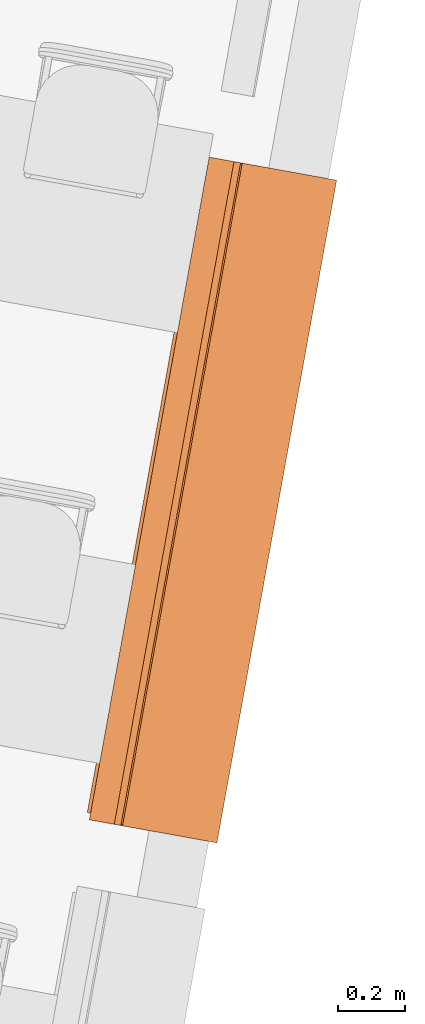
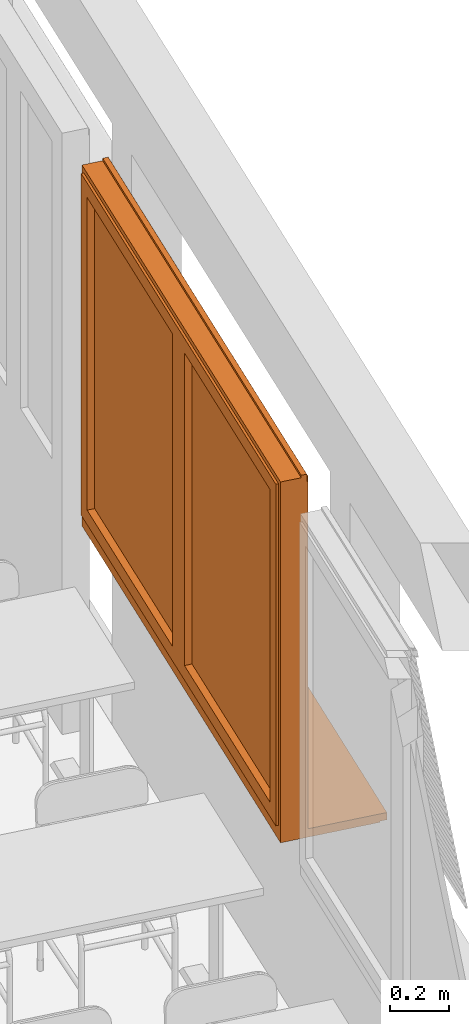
# One storey, part 57 of 79: 1 proxy.
"""IFC2X3 building model written with IfcOpenShell, lengths in metres."""

from ifc_helpers import new_model, entity, si_unit, converted_unit, derived_unit, money_unit, direction, frame, origin_with_axes, place, context, subcontext, project, spatial, open_shell, faceted_brep, surface_model, material, type_object, element, save


model = new_model("IFC2X3")

# Units and contexts
model_context = context("Model", 3, precision=1e-05, world=origin_with_axes(), true_north=direction((0.0, 1.0)))
body_context = subcontext(model_context, "Body", "Model", "MODEL_VIEW")
ifc_project = project(units=[si_unit("LENGTHUNIT", "METRE"), si_unit("AREAUNIT", "SQUARE_METRE"), si_unit("VOLUMEUNIT", "CUBIC_METRE"), converted_unit("PLANEANGLEUNIT", "DEGREE", entity("IfcPlaneAngleMeasure", 0.0174532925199), si_unit("PLANEANGLEUNIT", "RADIAN"), dimensions=[0, 0, 0, 0, 0, 0, 0]), money_unit("CHF"), converted_unit("TIMEUNIT", "Year", entity("IfcTimeMeasure", 31556926.0), si_unit("TIMEUNIT", "SECOND"), dimensions=[0, 0, 1, 0, 0, 0, 0]), si_unit("MASSUNIT", "GRAM", prefix="KILO"), si_unit("THERMODYNAMICTEMPERATUREUNIT", "DEGREE_CELSIUS"), si_unit("LUMINOUSINTENSITYUNIT", "LUMEN"), si_unit("ENERGYUNIT", "JOULE", prefix="MEGA"), derived_unit("THERMALCONDUCTANCEUNIT", [(si_unit("POWERUNIT", "WATT"), 1), (si_unit("LENGTHUNIT", "METRE"), -1), (si_unit("THERMODYNAMICTEMPERATUREUNIT", "KELVIN"), -1)]), derived_unit("SPECIFICHEATCAPACITYUNIT", [(si_unit("ENERGYUNIT", "JOULE"), 1), (si_unit("MASSUNIT", "GRAM", prefix="KILO"), -1), (si_unit("THERMODYNAMICTEMPERATUREUNIT", "KELVIN"), -1)]), derived_unit("MASSDENSITYUNIT", [(si_unit("MASSUNIT", "GRAM", prefix="KILO"), 1), (si_unit("VOLUMEUNIT", "CUBIC_METRE"), -1)])], contexts=[model_context])

# Site, building, storey
site_placement = place(None, frame((0.0, 0.0, 0.0), z_axis=(0.0, 0.0, 1.0), x_axis=(-0.177771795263, -0.984071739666, 0.0)))
site = spatial("IfcSite", under=ifc_project, at=site_placement, Name="Site", CompositionType="ELEMENT")
building_placement = place(site_placement, origin_with_axes())
building = spatial("IfcBuilding", under=site, at=building_placement, Name="Bâtiment", CompositionType="ELEMENT")
storey_placement = place(building_placement, origin_with_axes())
storey = spatial("IfcBuildingStorey", under=building, at=storey_placement, Name="RDC", CompositionType="ELEMENT", Elevation=0.0)

# Proxy
ifc_material = material(Name="Matériau de construction IFC")
building_element_proxy_type = type_object("IfcBuildingElementProxyType", Name="Fenêtre double 21", PredefinedType="NOTDEFINED")
proxy_placement = place(storey_placement, frame((150.919841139, -148.117150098, 1.0), z_axis=(0.0, 0.0, 1.0), x_axis=(-1.0, 0.0, 0.0)))
element("IfcBuildingElementProxy", 1, at=proxy_placement, inside=storey, type_object=building_element_proxy_type, material=ifc_material, Name="Fen classe-200", context=body_context, shape_type="SurfaceModel", body=[
    faceted_brep([(0.0, 0.285, 0.005), (0.0, 0.0, 0.005), (0.0, 0.0, 0.035), (0.0, 0.285, 0.035), (2.0, 0.285, 0.005), (2.0, 0.0, 0.005), (2.0, -0.0249999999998, 0.005), (0.0, -0.0249999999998, 0.005), (0.0, -0.0249999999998, 0.035), (2.0, -0.0249999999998, 0.035), (2.0, 0.0, 0.035), (2.0, 0.285, 0.035)], [[[0, 1, 2, 3]], [[0, 4, 5, 6, 7, 1]], [[1, 7, 8, 2]], [[3, 2, 8, 9, 10, 11]], [[4, 0, 3, 11]], [[5, 4, 11, 10]], [[6, 5, 10, 9]], [[7, 6, 9, 8]]]),
    faceted_brep([(0.0, 0.285, 0.0), (0.0, 0.0, 0.0), (0.0, 0.0, 0.005), (0.0, 0.285, 0.005), (2.0, 0.285, 0.0), (2.0, 0.0, 0.0), (2.0, 0.0, 0.005), (2.0, 0.285, 0.005)], [[[0, 1, 2, 3]], [[0, 4, 5, 1]], [[1, 5, 6, 2]], [[3, 2, 6, 7]], [[4, 0, 3, 7]], [[5, 4, 7, 6]]]),
    faceted_brep([(0.0, 0.285, 1.48), (0.00299999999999, 0.285, 1.48), (0.00299999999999, 0.265, 1.48), (0.0, 0.265, 1.48), (0.0, 0.285, 1.51), (0.00299999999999, 0.285, 1.51), (0.00299999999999, 0.265, 1.51), (0.0, 0.265, 1.51)], [[[0, 1, 2, 3]], [[4, 5, 1, 0]], [[1, 5, 6, 2]], [[3, 2, 6, 7]], [[0, 3, 7, 4]], [[7, 6, 5, 4]]]),
    faceted_brep([(1.997, 0.285, 1.48), (2.0, 0.285, 1.48), (2.0, 0.265, 1.48), (1.997, 0.265, 1.48), (1.997, 0.285, 1.51), (2.0, 0.285, 1.51), (2.0, 0.265, 1.51), (1.997, 0.265, 1.51)], [[[0, 1, 2, 3]], [[4, 5, 1, 0]], [[1, 5, 6, 2]], [[3, 2, 6, 7]], [[0, 3, 7, 4]], [[7, 6, 5, 4]]]),
    faceted_brep([(0.00299999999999, 0.285, 1.48), (1.997, 0.285, 1.48), (1.997, 0.282, 1.48), (0.00299999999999, 0.282, 1.48), (0.00299999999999, 0.285, 1.51), (1.997, 0.285, 1.51), (1.997, 0.265, 1.51), (1.997, 0.265, 1.48), (1.997, 0.268, 1.48), (1.997, 0.268, 1.5), (1.997, 0.26, 1.5), (1.997, 0.26, 1.48), (1.997, 0.263, 1.48), (1.997, 0.263, 1.503), (1.997, 0.268, 1.503), (1.997, 0.268, 1.507), (1.997, 0.282, 1.507), (1.997, 0.282, 1.5), (0.00299999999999, 0.282, 1.5), (0.00299999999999, 0.282, 1.507), (0.00299999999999, 0.268, 1.507), (0.00299999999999, 0.268, 1.503), (0.00299999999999, 0.263, 1.503), (0.00299999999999, 0.263, 1.48), (0.00299999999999, 0.26, 1.48), (0.00299999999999, 0.26, 1.5), (0.00299999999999, 0.268, 1.5), (0.00299999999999, 0.268, 1.48), (0.00299999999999, 0.265, 1.48), (0.00299999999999, 0.265, 1.51)], [[[0, 1, 2, 3]], [[4, 5, 1, 0]], [[1, 5, 6, 7, 8, 9, 10, 11, 12, 13, 14, 15, 16, 17, 2]], [[3, 2, 17, 18]], [[0, 3, 18, 19, 20, 21, 22, 23, 24, 25, 26, 27, 28, 29, 4]], [[29, 6, 5, 4]], [[28, 7, 6, 29]], [[27, 8, 7, 28]], [[26, 9, 8, 27]], [[25, 10, 9, 26]], [[24, 11, 10, 25]], [[23, 12, 11, 24]], [[22, 13, 12, 23]], [[21, 14, 13, 22]], [[20, 15, 14, 21]], [[19, 16, 15, 20]], [[18, 17, 16, 19]]]),
    faceted_brep([(2.0, 0.285, 0.03), (2.0, 0.285, 1.48), (2.0, 0.26, 1.48), (2.0, 0.26, 0.03), (1.975, 0.285, 0.03), (1.975, 0.285, 1.48), (1.975, 0.282, 1.48), (1.997, 0.282, 1.48), (1.997, 0.263, 1.48), (1.975, 0.263, 1.48), (1.975, 0.26, 1.48), (1.975, 0.26, 0.03), (1.975, 0.263, 0.03), (1.997, 0.263, 0.03), (1.997, 0.282, 0.03), (1.975, 0.282, 0.03)], [[[0, 1, 2, 3]], [[4, 5, 1, 0]], [[1, 5, 6, 7, 8, 9, 10, 2]], [[3, 2, 10, 11]], [[0, 3, 11, 12, 13, 14, 15, 4]], [[15, 6, 5, 4]], [[14, 7, 6, 15]], [[13, 8, 7, 14]], [[12, 9, 8, 13]], [[11, 10, 9, 12]]]),
    faceted_brep([(0.0, 0.285, 0.03), (0.0, 0.26, 0.03), (0.0, 0.26, 1.48), (0.0, 0.285, 1.48), (0.025, 0.285, 0.03), (0.025, 0.282, 0.03), (0.00299999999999, 0.282, 0.03), (0.00299999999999, 0.263, 0.03), (0.025, 0.263, 0.03), (0.025, 0.26, 0.03), (0.025, 0.26, 1.48), (0.025, 0.263, 1.48), (0.00299999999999, 0.263, 1.48), (0.00299999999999, 0.282, 1.48), (0.025, 0.282, 1.48), (0.025, 0.285, 1.48)], [[[0, 1, 2, 3]], [[0, 4, 5, 6, 7, 8, 9, 1]], [[1, 9, 10, 2]], [[3, 2, 10, 11, 12, 13, 14, 15]], [[4, 0, 3, 15]], [[5, 4, 15, 14]], [[6, 5, 14, 13]], [[7, 6, 13, 12]], [[8, 7, 12, 11]], [[9, 8, 11, 10]]]),
    faceted_brep([(1.997, 0.27375, 1.505), (1.997, 0.273333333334, 1.50333333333), (0.00299999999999, 0.273333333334, 1.50333333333), (0.00299999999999, 0.27375, 1.505), (1.997, 0.26875, 1.505), (1.997, 0.268333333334, 1.50333333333), (1.997, 0.268333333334, 1.49666666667), (1.997, 0.27, 1.49), (1.997, 0.275, 1.49), (1.997, 0.273333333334, 1.49666666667), (0.00299999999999, 0.273333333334, 1.49666666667), (0.00299999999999, 0.275, 1.49), (0.00299999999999, 0.27, 1.49), (0.00299999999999, 0.268333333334, 1.49666666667), (0.00299999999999, 0.268333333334, 1.50333333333), (0.00299999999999, 0.26875, 1.505)], [[[0, 1, 2, 3]], [[4, 5, 6, 7, 8, 9, 1, 0]], [[2, 1, 9, 10]], [[3, 2, 10, 11, 12, 13, 14, 15]], [[3, 15, 4, 0]], [[14, 5, 4, 15]], [[13, 6, 5, 14]], [[12, 7, 6, 13]], [[11, 8, 7, 12]], [[10, 9, 8, 11]]]),
    faceted_brep([(0.00299999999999, 0.275, 1.49), (1.997, 0.275, 1.49), (1.997, 0.273333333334, 1.48333333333), (0.00299999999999, 0.273333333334, 1.48333333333), (0.00299999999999, 0.27, 1.49), (1.997, 0.27, 1.49), (1.997, 0.268333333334, 1.48333333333), (1.997, 0.268333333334, 1.47666666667), (1.997, 0.27, 1.47), (1.997, 0.275, 1.47), (1.997, 0.273333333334, 1.47666666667), (0.00299999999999, 0.273333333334, 1.47666666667), (0.00299999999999, 0.275, 1.47), (0.00299999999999, 0.27, 1.47), (0.00299999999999, 0.268333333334, 1.47666666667), (0.00299999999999, 0.268333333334, 1.48333333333)], [[[0, 1, 2, 3]], [[4, 5, 1, 0]], [[1, 5, 6, 7, 8, 9, 10, 2]], [[3, 2, 10, 11]], [[0, 3, 11, 12, 13, 14, 15, 4]], [[15, 6, 5, 4]], [[14, 7, 6, 15]], [[13, 8, 7, 14]], [[12, 9, 8, 13]], [[11, 10, 9, 12]]]),
    faceted_brep([(0.00299999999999, 0.275, 1.47), (1.997, 0.275, 1.47), (1.997, 0.273333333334, 1.46333333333), (0.00299999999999, 0.273333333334, 1.46333333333), (0.00299999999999, 0.27, 1.47), (1.997, 0.27, 1.47), (1.997, 0.268333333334, 1.46333333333), (1.997, 0.268333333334, 1.45666666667), (1.997, 0.27, 1.45), (1.997, 0.275, 1.45), (1.997, 0.273333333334, 1.45666666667), (0.00299999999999, 0.273333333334, 1.45666666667), (0.00299999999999, 0.275, 1.45), (0.00299999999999, 0.27, 1.45), (0.00299999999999, 0.268333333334, 1.45666666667), (0.00299999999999, 0.268333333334, 1.46333333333)], [[[0, 1, 2, 3]], [[4, 5, 1, 0]], [[1, 5, 6, 7, 8, 9, 10, 2]], [[3, 2, 10, 11]], [[0, 3, 11, 12, 13, 14, 15, 4]], [[15, 6, 5, 4]], [[14, 7, 6, 15]], [[13, 8, 7, 14]], [[12, 9, 8, 13]], [[11, 10, 9, 12]]]),
    faceted_brep([(0.00299999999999, 0.275, 1.45), (1.997, 0.275, 1.45), (1.997, 0.273333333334, 1.44333333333), (0.00299999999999, 0.273333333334, 1.44333333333), (0.00299999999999, 0.27, 1.45), (1.997, 0.27, 1.45), (1.997, 0.268333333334, 1.44333333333), (1.997, 0.268333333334, 1.43666666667), (1.997, 0.27, 1.43), (1.997, 0.275, 1.43), (1.997, 0.273333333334, 1.43666666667), (0.00299999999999, 0.273333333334, 1.43666666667), (0.00299999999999, 0.275, 1.43), (0.00299999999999, 0.27, 1.43), (0.00299999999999, 0.268333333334, 1.43666666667), (0.00299999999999, 0.268333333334, 1.44333333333)], [[[0, 1, 2, 3]], [[4, 5, 1, 0]], [[1, 5, 6, 7, 8, 9, 10, 2]], [[3, 2, 10, 11]], [[0, 3, 11, 12, 13, 14, 15, 4]], [[15, 6, 5, 4]], [[14, 7, 6, 15]], [[13, 8, 7, 14]], [[12, 9, 8, 13]], [[11, 10, 9, 12]]]),
    faceted_brep([(0.00299999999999, 0.275, 1.43), (1.997, 0.275, 1.43), (1.997, 0.273333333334, 1.42333333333), (0.00299999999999, 0.273333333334, 1.42333333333), (0.00299999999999, 0.27, 1.43), (1.997, 0.27, 1.43), (1.997, 0.268333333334, 1.42333333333), (1.997, 0.268333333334, 1.41666666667), (1.997, 0.27, 1.41), (1.997, 0.275, 1.41), (1.997, 0.273333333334, 1.41666666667), (0.00299999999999, 0.273333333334, 1.41666666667), (0.00299999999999, 0.275, 1.41), (0.00299999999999, 0.27, 1.41), (0.00299999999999, 0.268333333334, 1.41666666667), (0.00299999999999, 0.268333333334, 1.42333333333)], [[[0, 1, 2, 3]], [[4, 5, 1, 0]], [[1, 5, 6, 7, 8, 9, 10, 2]], [[3, 2, 10, 11]], [[0, 3, 11, 12, 13, 14, 15, 4]], [[15, 6, 5, 4]], [[14, 7, 6, 15]], [[13, 8, 7, 14]], [[12, 9, 8, 13]], [[11, 10, 9, 12]]]),
    faceted_brep([(0.00299999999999, 0.275, 1.41), (1.997, 0.275, 1.41), (1.997, 0.273333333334, 1.40333333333), (0.00299999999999, 0.273333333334, 1.40333333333), (0.00299999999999, 0.27, 1.41), (1.997, 0.27, 1.41), (1.997, 0.268333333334, 1.40333333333), (1.997, 0.268333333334, 1.39666666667), (1.997, 0.27, 1.39), (1.997, 0.275, 1.39), (1.997, 0.273333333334, 1.39666666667), (0.00299999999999, 0.273333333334, 1.39666666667), (0.00299999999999, 0.275, 1.39), (0.00299999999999, 0.27, 1.39), (0.00299999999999, 0.268333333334, 1.39666666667), (0.00299999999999, 0.268333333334, 1.40333333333)], [[[0, 1, 2, 3]], [[4, 5, 1, 0]], [[1, 5, 6, 7, 8, 9, 10, 2]], [[3, 2, 10, 11]], [[0, 3, 11, 12, 13, 14, 15, 4]], [[15, 6, 5, 4]], [[14, 7, 6, 15]], [[13, 8, 7, 14]], [[12, 9, 8, 13]], [[11, 10, 9, 12]]]),
    faceted_brep([(0.00299999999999, 0.275, 1.39), (1.997, 0.275, 1.39), (1.997, 0.273333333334, 1.38333333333), (0.00299999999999, 0.273333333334, 1.38333333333), (0.00299999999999, 0.27, 1.39), (1.997, 0.27, 1.39), (1.997, 0.268333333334, 1.38333333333), (1.997, 0.268333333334, 1.37666666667), (1.997, 0.27, 1.37), (1.997, 0.275, 1.37), (1.997, 0.273333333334, 1.37666666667), (0.00299999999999, 0.273333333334, 1.37666666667), (0.00299999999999, 0.275, 1.37), (0.00299999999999, 0.27, 1.37), (0.00299999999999, 0.268333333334, 1.37666666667), (0.00299999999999, 0.268333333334, 1.38333333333)], [[[0, 1, 2, 3]], [[4, 5, 1, 0]], [[1, 5, 6, 7, 8, 9, 10, 2]], [[3, 2, 10, 11]], [[0, 3, 11, 12, 13, 14, 15, 4]], [[15, 6, 5, 4]], [[14, 7, 6, 15]], [[13, 8, 7, 14]], [[12, 9, 8, 13]], [[11, 10, 9, 12]]]),
    faceted_brep([(0.00299999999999, 0.275, 1.37), (1.997, 0.275, 1.37), (1.997, 0.273333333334, 1.36333333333), (0.00299999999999, 0.273333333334, 1.36333333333), (0.00299999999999, 0.27, 1.37), (1.997, 0.27, 1.37), (1.997, 0.268333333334, 1.36333333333), (1.997, 0.268333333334, 1.35666666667), (1.997, 0.27, 1.35), (1.997, 0.275, 1.35), (1.997, 0.273333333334, 1.35666666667), (0.00299999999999, 0.273333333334, 1.35666666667), (0.00299999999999, 0.275, 1.35), (0.00299999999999, 0.27, 1.35), (0.00299999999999, 0.268333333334, 1.35666666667), (0.00299999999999, 0.268333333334, 1.36333333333)], [[[0, 1, 2, 3]], [[4, 5, 1, 0]], [[1, 5, 6, 7, 8, 9, 10, 2]], [[3, 2, 10, 11]], [[0, 3, 11, 12, 13, 14, 15, 4]], [[15, 6, 5, 4]], [[14, 7, 6, 15]], [[13, 8, 7, 14]], [[12, 9, 8, 13]], [[11, 10, 9, 12]]]),
    faceted_brep([(0.00299999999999, 0.275, 1.35), (1.997, 0.275, 1.35), (1.997, 0.273333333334, 1.34333333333), (0.00299999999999, 0.273333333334, 1.34333333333), (0.00299999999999, 0.27, 1.35), (1.997, 0.27, 1.35), (1.997, 0.268333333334, 1.34333333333), (1.997, 0.268333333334, 1.33666666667), (1.997, 0.27, 1.33), (1.997, 0.275, 1.33), (1.997, 0.273333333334, 1.33666666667), (0.00299999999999, 0.273333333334, 1.33666666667), (0.00299999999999, 0.275, 1.33), (0.00299999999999, 0.27, 1.33), (0.00299999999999, 0.268333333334, 1.33666666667), (0.00299999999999, 0.268333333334, 1.34333333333)], [[[0, 1, 2, 3]], [[4, 5, 1, 0]], [[1, 5, 6, 7, 8, 9, 10, 2]], [[3, 2, 10, 11]], [[0, 3, 11, 12, 13, 14, 15, 4]], [[15, 6, 5, 4]], [[14, 7, 6, 15]], [[13, 8, 7, 14]], [[12, 9, 8, 13]], [[11, 10, 9, 12]]]),
    faceted_brep([(0.00299999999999, 0.275, 1.33), (1.997, 0.275, 1.33), (1.997, 0.273333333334, 1.32333333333), (0.00299999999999, 0.273333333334, 1.32333333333), (0.00299999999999, 0.27, 1.33), (1.997, 0.27, 1.33), (1.997, 0.268333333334, 1.32333333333), (1.997, 0.268333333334, 1.31666666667), (1.997, 0.27, 1.31), (1.997, 0.275, 1.31), (1.997, 0.273333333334, 1.31666666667), (0.00299999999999, 0.273333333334, 1.31666666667), (0.00299999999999, 0.275, 1.31), (0.00299999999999, 0.27, 1.31), (0.00299999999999, 0.268333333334, 1.31666666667), (0.00299999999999, 0.268333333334, 1.32333333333)], [[[0, 1, 2, 3]], [[4, 5, 1, 0]], [[1, 5, 6, 7, 8, 9, 10, 2]], [[3, 2, 10, 11]], [[0, 3, 11, 12, 13, 14, 15, 4]], [[15, 6, 5, 4]], [[14, 7, 6, 15]], [[13, 8, 7, 14]], [[12, 9, 8, 13]], [[11, 10, 9, 12]]]),
    faceted_brep([(0.00299999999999, 0.275, 1.31), (1.997, 0.275, 1.31), (1.997, 0.273333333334, 1.30333333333), (0.00299999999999, 0.273333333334, 1.30333333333), (0.00299999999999, 0.27, 1.31), (1.997, 0.27, 1.31), (1.997, 0.268333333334, 1.30333333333), (1.997, 0.268333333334, 1.29666666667), (1.997, 0.27, 1.29), (1.997, 0.275, 1.29), (1.997, 0.273333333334, 1.29666666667), (0.00299999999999, 0.273333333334, 1.29666666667), (0.00299999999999, 0.275, 1.29), (0.00299999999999, 0.27, 1.29), (0.00299999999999, 0.268333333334, 1.29666666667), (0.00299999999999, 0.268333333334, 1.30333333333)], [[[0, 1, 2, 3]], [[4, 5, 1, 0]], [[1, 5, 6, 7, 8, 9, 10, 2]], [[3, 2, 10, 11]], [[0, 3, 11, 12, 13, 14, 15, 4]], [[15, 6, 5, 4]], [[14, 7, 6, 15]], [[13, 8, 7, 14]], [[12, 9, 8, 13]], [[11, 10, 9, 12]]]),
    faceted_brep([(0.00299999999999, 0.275, 1.29), (1.997, 0.275, 1.29), (1.997, 0.273333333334, 1.28333333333), (0.00299999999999, 0.273333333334, 1.28333333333), (0.00299999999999, 0.27, 1.29), (1.997, 0.27, 1.29), (1.997, 0.268333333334, 1.28333333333), (1.997, 0.268333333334, 1.27666666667), (1.997, 0.27, 1.27), (1.997, 0.275, 1.27), (1.997, 0.273333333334, 1.27666666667), (0.00299999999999, 0.273333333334, 1.27666666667), (0.00299999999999, 0.275, 1.27), (0.00299999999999, 0.27, 1.27), (0.00299999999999, 0.268333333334, 1.27666666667), (0.00299999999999, 0.268333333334, 1.28333333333)], [[[0, 1, 2, 3]], [[4, 5, 1, 0]], [[1, 5, 6, 7, 8, 9, 10, 2]], [[3, 2, 10, 11]], [[0, 3, 11, 12, 13, 14, 15, 4]], [[15, 6, 5, 4]], [[14, 7, 6, 15]], [[13, 8, 7, 14]], [[12, 9, 8, 13]], [[11, 10, 9, 12]]]),
    faceted_brep([(0.00299999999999, 0.275, 1.27), (1.997, 0.275, 1.27), (1.997, 0.273333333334, 1.26333333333), (0.00299999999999, 0.273333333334, 1.26333333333), (0.00299999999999, 0.27, 1.27), (1.997, 0.27, 1.27), (1.997, 0.268333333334, 1.26333333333), (1.997, 0.268333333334, 1.25666666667), (1.997, 0.27, 1.25), (1.997, 0.275, 1.25), (1.997, 0.273333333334, 1.25666666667), (0.00299999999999, 0.273333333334, 1.25666666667), (0.00299999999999, 0.275, 1.25), (0.00299999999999, 0.27, 1.25), (0.00299999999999, 0.268333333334, 1.25666666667), (0.00299999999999, 0.268333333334, 1.26333333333)], [[[0, 1, 2, 3]], [[4, 5, 1, 0]], [[1, 5, 6, 7, 8, 9, 10, 2]], [[3, 2, 10, 11]], [[0, 3, 11, 12, 13, 14, 15, 4]], [[15, 6, 5, 4]], [[14, 7, 6, 15]], [[13, 8, 7, 14]], [[12, 9, 8, 13]], [[11, 10, 9, 12]]]),
    faceted_brep([(0.00299999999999, 0.275, 1.25), (1.997, 0.275, 1.25), (1.997, 0.273333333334, 1.24333333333), (0.00299999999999, 0.273333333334, 1.24333333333), (0.00299999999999, 0.27, 1.25), (1.997, 0.27, 1.25), (1.997, 0.268333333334, 1.24333333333), (1.997, 0.268333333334, 1.23666666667), (1.997, 0.27, 1.23), (1.997, 0.275, 1.23), (1.997, 0.273333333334, 1.23666666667), (0.00299999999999, 0.273333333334, 1.23666666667), (0.00299999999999, 0.275, 1.23), (0.00299999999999, 0.27, 1.23), (0.00299999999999, 0.268333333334, 1.23666666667), (0.00299999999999, 0.268333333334, 1.24333333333)], [[[0, 1, 2, 3]], [[4, 5, 1, 0]], [[1, 5, 6, 7, 8, 9, 10, 2]], [[3, 2, 10, 11]], [[0, 3, 11, 12, 13, 14, 15, 4]], [[15, 6, 5, 4]], [[14, 7, 6, 15]], [[13, 8, 7, 14]], [[12, 9, 8, 13]], [[11, 10, 9, 12]]]),
    faceted_brep([(0.00299999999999, 0.275, 1.23), (1.997, 0.275, 1.23), (1.997, 0.273333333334, 1.22333333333), (0.00299999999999, 0.273333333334, 1.22333333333), (0.00299999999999, 0.27, 1.23), (1.997, 0.27, 1.23), (1.997, 0.268333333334, 1.22333333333), (1.997, 0.268333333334, 1.21666666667), (1.997, 0.27, 1.21), (1.997, 0.275, 1.21), (1.997, 0.273333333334, 1.21666666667), (0.00299999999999, 0.273333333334, 1.21666666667), (0.00299999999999, 0.275, 1.21), (0.00299999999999, 0.27, 1.21), (0.00299999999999, 0.268333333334, 1.21666666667), (0.00299999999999, 0.268333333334, 1.22333333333)], [[[0, 1, 2, 3]], [[4, 5, 1, 0]], [[1, 5, 6, 7, 8, 9, 10, 2]], [[3, 2, 10, 11]], [[0, 3, 11, 12, 13, 14, 15, 4]], [[15, 6, 5, 4]], [[14, 7, 6, 15]], [[13, 8, 7, 14]], [[12, 9, 8, 13]], [[11, 10, 9, 12]]]),
    faceted_brep([(0.00299999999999, 0.275, 1.21), (1.997, 0.275, 1.21), (1.997, 0.273333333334, 1.20333333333), (0.00299999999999, 0.273333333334, 1.20333333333), (0.00299999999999, 0.27, 1.21), (1.997, 0.27, 1.21), (1.997, 0.268333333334, 1.20333333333), (1.997, 0.268333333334, 1.19666666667), (1.997, 0.27, 1.19), (1.997, 0.275, 1.19), (1.997, 0.273333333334, 1.19666666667), (0.00299999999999, 0.273333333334, 1.19666666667), (0.00299999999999, 0.275, 1.19), (0.00299999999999, 0.27, 1.19), (0.00299999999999, 0.268333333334, 1.19666666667), (0.00299999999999, 0.268333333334, 1.20333333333)], [[[0, 1, 2, 3]], [[4, 5, 1, 0]], [[1, 5, 6, 7, 8, 9, 10, 2]], [[3, 2, 10, 11]], [[0, 3, 11, 12, 13, 14, 15, 4]], [[15, 6, 5, 4]], [[14, 7, 6, 15]], [[13, 8, 7, 14]], [[12, 9, 8, 13]], [[11, 10, 9, 12]]]),
    faceted_brep([(0.00299999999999, 0.275, 1.19), (1.997, 0.275, 1.19), (1.997, 0.273333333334, 1.18333333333), (0.00299999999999, 0.273333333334, 1.18333333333), (0.00299999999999, 0.27, 1.19), (1.997, 0.27, 1.19), (1.997, 0.268333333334, 1.18333333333), (1.997, 0.268333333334, 1.17666666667), (1.997, 0.27, 1.17), (1.997, 0.275, 1.17), (1.997, 0.273333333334, 1.17666666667), (0.00299999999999, 0.273333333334, 1.17666666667), (0.00299999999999, 0.275, 1.17), (0.00299999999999, 0.27, 1.17), (0.00299999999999, 0.268333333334, 1.17666666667), (0.00299999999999, 0.268333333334, 1.18333333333)], [[[0, 1, 2, 3]], [[4, 5, 1, 0]], [[1, 5, 6, 7, 8, 9, 10, 2]], [[3, 2, 10, 11]], [[0, 3, 11, 12, 13, 14, 15, 4]], [[15, 6, 5, 4]], [[14, 7, 6, 15]], [[13, 8, 7, 14]], [[12, 9, 8, 13]], [[11, 10, 9, 12]]]),
    faceted_brep([(0.00299999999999, 0.275, 1.17), (1.997, 0.275, 1.17), (1.997, 0.273333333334, 1.16333333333), (0.00299999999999, 0.273333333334, 1.16333333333), (0.00299999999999, 0.27, 1.17), (1.997, 0.27, 1.17), (1.997, 0.268333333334, 1.16333333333), (1.997, 0.268333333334, 1.15666666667), (1.997, 0.27, 1.15), (1.997, 0.275, 1.15), (1.997, 0.273333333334, 1.15666666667), (0.00299999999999, 0.273333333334, 1.15666666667), (0.00299999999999, 0.275, 1.15), (0.00299999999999, 0.27, 1.15), (0.00299999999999, 0.268333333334, 1.15666666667), (0.00299999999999, 0.268333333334, 1.16333333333)], [[[0, 1, 2, 3]], [[4, 5, 1, 0]], [[1, 5, 6, 7, 8, 9, 10, 2]], [[3, 2, 10, 11]], [[0, 3, 11, 12, 13, 14, 15, 4]], [[15, 6, 5, 4]], [[14, 7, 6, 15]], [[13, 8, 7, 14]], [[12, 9, 8, 13]], [[11, 10, 9, 12]]]),
    faceted_brep([(0.00299999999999, 0.275, 1.15), (1.997, 0.275, 1.15), (1.997, 0.273333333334, 1.14333333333), (0.00299999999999, 0.273333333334, 1.14333333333), (0.00299999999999, 0.27, 1.15), (1.997, 0.27, 1.15), (1.997, 0.268333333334, 1.14333333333), (1.997, 0.268333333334, 1.13666666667), (1.997, 0.27, 1.13), (1.997, 0.275, 1.13), (1.997, 0.273333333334, 1.13666666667), (0.00299999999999, 0.273333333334, 1.13666666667), (0.00299999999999, 0.275, 1.13), (0.00299999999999, 0.27, 1.13), (0.00299999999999, 0.268333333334, 1.13666666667), (0.00299999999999, 0.268333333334, 1.14333333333)], [[[0, 1, 2, 3]], [[4, 5, 1, 0]], [[1, 5, 6, 7, 8, 9, 10, 2]], [[3, 2, 10, 11]], [[0, 3, 11, 12, 13, 14, 15, 4]], [[15, 6, 5, 4]], [[14, 7, 6, 15]], [[13, 8, 7, 14]], [[12, 9, 8, 13]], [[11, 10, 9, 12]]]),
    faceted_brep([(0.00299999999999, 0.275, 1.13), (1.997, 0.275, 1.13), (1.997, 0.273333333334, 1.12333333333), (0.00299999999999, 0.273333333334, 1.12333333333), (0.00299999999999, 0.27, 1.13), (1.997, 0.27, 1.13), (1.997, 0.268333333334, 1.12333333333), (1.997, 0.268333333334, 1.11666666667), (1.997, 0.27, 1.11), (1.997, 0.275, 1.11), (1.997, 0.273333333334, 1.11666666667), (0.00299999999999, 0.273333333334, 1.11666666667), (0.00299999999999, 0.275, 1.11), (0.00299999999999, 0.27, 1.11), (0.00299999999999, 0.268333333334, 1.11666666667), (0.00299999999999, 0.268333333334, 1.12333333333)], [[[0, 1, 2, 3]], [[4, 5, 1, 0]], [[1, 5, 6, 7, 8, 9, 10, 2]], [[3, 2, 10, 11]], [[0, 3, 11, 12, 13, 14, 15, 4]], [[15, 6, 5, 4]], [[14, 7, 6, 15]], [[13, 8, 7, 14]], [[12, 9, 8, 13]], [[11, 10, 9, 12]]]),
    faceted_brep([(0.00299999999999, 0.275, 1.11), (1.997, 0.275, 1.11), (1.997, 0.273333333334, 1.10333333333), (0.00299999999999, 0.273333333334, 1.10333333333), (0.00299999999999, 0.27, 1.11), (1.997, 0.27, 1.11), (1.997, 0.268333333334, 1.10333333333), (1.997, 0.268333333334, 1.09666666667), (1.997, 0.27, 1.09), (1.997, 0.275, 1.09), (1.997, 0.273333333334, 1.09666666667), (0.00299999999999, 0.273333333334, 1.09666666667), (0.00299999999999, 0.275, 1.09), (0.00299999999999, 0.27, 1.09), (0.00299999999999, 0.268333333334, 1.09666666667), (0.00299999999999, 0.268333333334, 1.10333333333)], [[[0, 1, 2, 3]], [[4, 5, 1, 0]], [[1, 5, 6, 7, 8, 9, 10, 2]], [[3, 2, 10, 11]], [[0, 3, 11, 12, 13, 14, 15, 4]], [[15, 6, 5, 4]], [[14, 7, 6, 15]], [[13, 8, 7, 14]], [[12, 9, 8, 13]], [[11, 10, 9, 12]]]),
    faceted_brep([(0.00299999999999, 0.275, 1.09), (1.997, 0.275, 1.09), (1.997, 0.273333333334, 1.08333333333), (0.00299999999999, 0.273333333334, 1.08333333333), (0.00299999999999, 0.27, 1.09), (1.997, 0.27, 1.09), (1.997, 0.268333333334, 1.08333333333), (1.997, 0.268333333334, 1.07666666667), (1.997, 0.27, 1.07), (1.997, 0.275, 1.07), (1.997, 0.273333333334, 1.07666666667), (0.00299999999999, 0.273333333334, 1.07666666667), (0.00299999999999, 0.275, 1.07), (0.00299999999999, 0.27, 1.07), (0.00299999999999, 0.268333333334, 1.07666666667), (0.00299999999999, 0.268333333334, 1.08333333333)], [[[0, 1, 2, 3]], [[4, 5, 1, 0]], [[1, 5, 6, 7, 8, 9, 10, 2]], [[3, 2, 10, 11]], [[0, 3, 11, 12, 13, 14, 15, 4]], [[15, 6, 5, 4]], [[14, 7, 6, 15]], [[13, 8, 7, 14]], [[12, 9, 8, 13]], [[11, 10, 9, 12]]]),
    faceted_brep([(0.00299999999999, 0.275, 1.07), (1.997, 0.275, 1.07), (1.997, 0.273333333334, 1.06333333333), (0.00299999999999, 0.273333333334, 1.06333333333), (0.00299999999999, 0.27, 1.07), (1.997, 0.27, 1.07), (1.997, 0.268333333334, 1.06333333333), (1.997, 0.268333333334, 1.05666666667), (1.997, 0.27, 1.05), (1.997, 0.275, 1.05), (1.997, 0.273333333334, 1.05666666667), (0.00299999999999, 0.273333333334, 1.05666666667), (0.00299999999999, 0.275, 1.05), (0.00299999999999, 0.27, 1.05), (0.00299999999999, 0.268333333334, 1.05666666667), (0.00299999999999, 0.268333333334, 1.06333333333)], [[[0, 1, 2, 3]], [[4, 5, 1, 0]], [[1, 5, 6, 7, 8, 9, 10, 2]], [[3, 2, 10, 11]], [[0, 3, 11, 12, 13, 14, 15, 4]], [[15, 6, 5, 4]], [[14, 7, 6, 15]], [[13, 8, 7, 14]], [[12, 9, 8, 13]], [[11, 10, 9, 12]]]),
    faceted_brep([(0.00299999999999, 0.275, 1.05), (1.997, 0.275, 1.05), (1.997, 0.273333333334, 1.04333333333), (0.00299999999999, 0.273333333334, 1.04333333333), (0.00299999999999, 0.27, 1.05), (1.997, 0.27, 1.05), (1.997, 0.268333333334, 1.04333333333), (1.997, 0.268333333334, 1.03666666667), (1.997, 0.27, 1.03), (1.997, 0.275, 1.03), (1.997, 0.273333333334, 1.03666666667), (0.00299999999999, 0.273333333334, 1.03666666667), (0.00299999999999, 0.275, 1.03), (0.00299999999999, 0.27, 1.03), (0.00299999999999, 0.268333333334, 1.03666666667), (0.00299999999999, 0.268333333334, 1.04333333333)], [[[0, 1, 2, 3]], [[4, 5, 1, 0]], [[1, 5, 6, 7, 8, 9, 10, 2]], [[3, 2, 10, 11]], [[0, 3, 11, 12, 13, 14, 15, 4]], [[15, 6, 5, 4]], [[14, 7, 6, 15]], [[13, 8, 7, 14]], [[12, 9, 8, 13]], [[11, 10, 9, 12]]]),
    faceted_brep([(0.02, 0.36, 1.47), (0.0, 0.36, 1.47), (0.0, 0.285, 1.47), (0.03, 0.285, 1.47), (0.03, 0.295, 1.47), (0.02, 0.295, 1.47), (0.02, 0.36, 0.07), (0.0, 0.36, 0.07), (0.0, 0.285, 0.07), (0.03, 0.285, 0.07), (0.03, 0.295, 0.07), (0.02, 0.295, 0.07)], [[[0, 1, 2, 3, 4, 5]], [[6, 7, 1, 0]], [[1, 7, 8, 2]], [[2, 8, 9, 3]], [[4, 3, 9, 10]], [[10, 11, 5, 4]], [[5, 11, 6, 0]], [[11, 10, 9, 8, 7, 6]]]),
    faceted_brep([(1.97, 0.295, 1.47), (1.97, 0.285, 1.47), (2.0, 0.285, 1.47), (2.0, 0.36, 1.47), (1.98, 0.36, 1.47), (1.98, 0.295, 1.47), (1.97, 0.295, 0.07), (1.97, 0.285, 0.07), (2.0, 0.285, 0.07), (2.0, 0.36, 0.07), (1.98, 0.36, 0.07), (1.98, 0.295, 0.07)], [[[0, 1, 2, 3, 4, 5]], [[6, 7, 1, 0]], [[8, 2, 1, 7]], [[9, 3, 2, 8]], [[4, 3, 9, 10]], [[10, 11, 5, 4]], [[5, 11, 6, 0]], [[11, 10, 9, 8, 7, 6]]]),
    faceted_brep([(0.99, 0.295, 1.47), (0.99, 0.285, 1.47), (1.01, 0.285, 1.47), (1.01, 0.295, 1.47), (0.99, 0.295, 0.07), (0.99, 0.285, 0.07), (1.01, 0.285, 0.07), (1.01, 0.295, 0.07)], [[[0, 1, 2, 3]], [[4, 5, 1, 0]], [[6, 2, 1, 5]], [[3, 2, 6, 7]], [[3, 7, 4, 0]], [[4, 7, 6, 5]]]),
    faceted_brep([(0.99, 0.295, 0.07), (0.99, 0.285, 0.07), (1.01, 0.285, 0.07), (1.01, 0.295, 0.07), (0.03, 0.295, 0.07), (0.03, 0.285, 0.07), (0.0, 0.285, 0.07), (0.0, 0.285, 0.0), (2.0, 0.285, 0.0), (2.0, 0.285, 0.07), (1.97, 0.285, 0.07), (1.97, 0.295, 0.07), (1.98, 0.295, 0.07), (1.98, 0.295, 0.06), (0.02, 0.295, 0.06), (0.02, 0.295, 0.07), (0.02, 0.36, 0.07), (0.0, 0.36, 0.07), (0.0, 0.36, 0.0), (2.0, 0.36, 0.0), (2.0, 0.36, 0.07), (1.98, 0.36, 0.07), (1.98, 0.36, 0.06), (0.02, 0.36, 0.06)], [[[0, 1, 2, 3]], [[4, 5, 1, 0]], [[6, 7, 8, 9, 10, 2, 1, 5]], [[3, 2, 10, 11]], [[3, 11, 12, 13, 14, 15, 4, 0]], [[15, 16, 17, 6, 5, 4]], [[17, 18, 7, 6]], [[18, 19, 8, 7]], [[19, 20, 9, 8]], [[11, 10, 9, 20, 21, 12]], [[22, 13, 12, 21]], [[14, 13, 22, 23]], [[15, 14, 23, 16]], [[23, 22, 21, 20, 19, 18, 17, 16]]]),
    faceted_brep([(0.02, 0.36, 1.47), (0.0, 0.36, 1.47), (0.0, 0.36, 1.5), (2.0, 0.36, 1.5), (2.0, 0.36, 1.47), (1.98, 0.36, 1.47), (1.98, 0.36, 1.48), (0.02, 0.36, 1.48), (0.02, 0.295, 1.47), (0.03, 0.295, 1.47), (0.03, 0.285, 1.47), (0.0, 0.285, 1.47), (0.0, 0.285, 1.5), (2.0, 0.285, 1.5), (2.0, 0.285, 1.47), (1.98, 0.295, 1.47), (1.97, 0.285, 1.47), (1.97, 0.295, 1.47), (1.98, 0.295, 1.48), (0.02, 0.295, 1.48), (1.01, 0.295, 1.47), (0.99, 0.295, 1.47), (0.99, 0.285, 1.47), (1.01, 0.285, 1.47)], [[[0, 1, 2, 3, 4, 5, 6, 7]], [[8, 9, 10, 11, 1, 0]], [[2, 1, 11, 12]], [[3, 2, 12, 13]], [[4, 3, 13, 14]], [[15, 5, 4, 14, 16, 17]], [[5, 15, 18, 6]], [[6, 18, 19, 7]], [[7, 19, 8, 0]], [[19, 18, 15, 17, 20, 21, 9, 8]], [[21, 22, 10, 9]], [[23, 16, 14, 13, 12, 11, 10, 22]], [[17, 16, 23, 20]], [[21, 20, 23, 22]]]),
    faceted_brep([(0.08, 0.295, 1.42), (0.08, 0.37, 1.42), (0.02, 0.37, 1.42), (0.02, 0.295, 1.42), (0.08, 0.295, 0.12), (0.08, 0.37, 0.12), (0.02, 0.37, 0.12), (0.02, 0.295, 0.12)], [[[0, 1, 2, 3]], [[4, 5, 1, 0]], [[1, 5, 6, 2]], [[3, 2, 6, 7]], [[0, 3, 7, 4]], [[7, 6, 5, 4]]]),
    faceted_brep([(0.94, 0.295, 0.12), (0.94, 0.37, 0.12), (1.0, 0.37, 0.12), (1.0, 0.295, 0.12), (0.94, 0.295, 1.42), (0.94, 0.37, 1.42), (1.0, 0.37, 1.42), (1.0, 0.295, 1.42)], [[[0, 1, 2, 3]], [[4, 5, 1, 0]], [[1, 5, 6, 2]], [[3, 2, 6, 7]], [[0, 3, 7, 4]], [[7, 6, 5, 4]]]),
    faceted_brep([(1.0, 0.295, 0.06), (1.0, 0.37, 0.06), (1.0, 0.37, 0.12), (1.0, 0.295, 0.12), (0.02, 0.295, 0.06), (0.02, 0.37, 0.06), (0.02, 0.37, 0.12), (0.08, 0.37, 0.12), (0.94, 0.37, 0.12), (0.94, 0.295, 0.12), (0.08, 0.295, 0.12), (0.02, 0.295, 0.12)], [[[0, 1, 2, 3]], [[4, 5, 1, 0]], [[1, 5, 6, 7, 8, 2]], [[3, 2, 8, 9]], [[0, 3, 9, 10, 11, 4]], [[11, 6, 5, 4]], [[10, 7, 6, 11]], [[9, 8, 7, 10]]]),
    faceted_brep([(0.02, 0.295, 1.48), (0.02, 0.37, 1.48), (0.02, 0.37, 1.42), (0.02, 0.295, 1.42), (1.0, 0.295, 1.48), (1.0, 0.37, 1.48), (1.0, 0.37, 1.42), (0.94, 0.37, 1.42), (0.08, 0.37, 1.42), (0.08, 0.295, 1.42), (0.94, 0.295, 1.42), (1.0, 0.295, 1.42)], [[[0, 1, 2, 3]], [[4, 5, 1, 0]], [[1, 5, 6, 7, 8, 2]], [[3, 2, 8, 9]], [[0, 3, 9, 10, 11, 4]], [[11, 6, 5, 4]], [[10, 7, 6, 11]], [[9, 8, 7, 10]]]),
    surface_model("IfcShellBasedSurfaceModel", [(0.08, 0.3225, 0.12), (0.94, 0.3225, 0.12), (0.94, 0.3225, 1.42), (0.08, 0.3225, 1.42)], [open_shell([[[0, 1, 2, 3]]])]),
    surface_model("IfcShellBasedSurfaceModel", [(0.08, 0.3425, 0.12), (0.08, 0.3425, 1.42), (0.94, 0.3425, 1.42), (0.94, 0.3425, 0.12)], [open_shell([[[0, 1, 2, 3]]])]),
    faceted_brep([(1.06, 0.295, 1.42), (1.06, 0.37, 1.42), (1.0, 0.37, 1.42), (1.0, 0.295, 1.42), (1.06, 0.295, 0.12), (1.06, 0.37, 0.12), (1.0, 0.37, 0.12), (1.0, 0.295, 0.12)], [[[0, 1, 2, 3]], [[4, 5, 1, 0]], [[1, 5, 6, 2]], [[3, 2, 6, 7]], [[0, 3, 7, 4]], [[7, 6, 5, 4]]]),
    faceted_brep([(1.92, 0.295, 0.12), (1.92, 0.37, 0.12), (1.98, 0.37, 0.12), (1.98, 0.295, 0.12), (1.92, 0.295, 1.42), (1.92, 0.37, 1.42), (1.98, 0.37, 1.42), (1.98, 0.295, 1.42)], [[[0, 1, 2, 3]], [[4, 5, 1, 0]], [[1, 5, 6, 2]], [[3, 2, 6, 7]], [[0, 3, 7, 4]], [[7, 6, 5, 4]]]),
    faceted_brep([(1.98, 0.295, 0.06), (1.98, 0.37, 0.06), (1.98, 0.37, 0.12), (1.98, 0.295, 0.12), (1.0, 0.295, 0.06), (1.0, 0.37, 0.06), (1.0, 0.37, 0.12), (1.06, 0.37, 0.12), (1.92, 0.37, 0.12), (1.92, 0.295, 0.12), (1.06, 0.295, 0.12), (1.0, 0.295, 0.12)], [[[0, 1, 2, 3]], [[4, 5, 1, 0]], [[1, 5, 6, 7, 8, 2]], [[3, 2, 8, 9]], [[0, 3, 9, 10, 11, 4]], [[11, 6, 5, 4]], [[10, 7, 6, 11]], [[9, 8, 7, 10]]]),
    faceted_brep([(1.0, 0.295, 1.48), (1.0, 0.37, 1.48), (1.0, 0.37, 1.42), (1.0, 0.295, 1.42), (1.98, 0.295, 1.48), (1.98, 0.37, 1.48), (1.98, 0.37, 1.42), (1.92, 0.37, 1.42), (1.06, 0.37, 1.42), (1.06, 0.295, 1.42), (1.92, 0.295, 1.42), (1.98, 0.295, 1.42)], [[[0, 1, 2, 3]], [[4, 5, 1, 0]], [[1, 5, 6, 7, 8, 2]], [[3, 2, 8, 9]], [[0, 3, 9, 10, 11, 4]], [[11, 6, 5, 4]], [[10, 7, 6, 11]], [[9, 8, 7, 10]]]),
    surface_model("IfcShellBasedSurfaceModel", [(1.06, 0.3225, 0.12), (1.92, 0.3225, 0.12), (1.92, 0.3225, 1.42), (1.06, 0.3225, 1.42)], [open_shell([[[0, 1, 2, 3]]])]),
    surface_model("IfcShellBasedSurfaceModel", [(1.06, 0.3425, 0.12), (1.06, 0.3425, 1.42), (1.92, 0.3425, 1.42), (1.92, 0.3425, 0.12)], [open_shell([[[0, 1, 2, 3]]])]),
])

save(model, "model.ifc")
